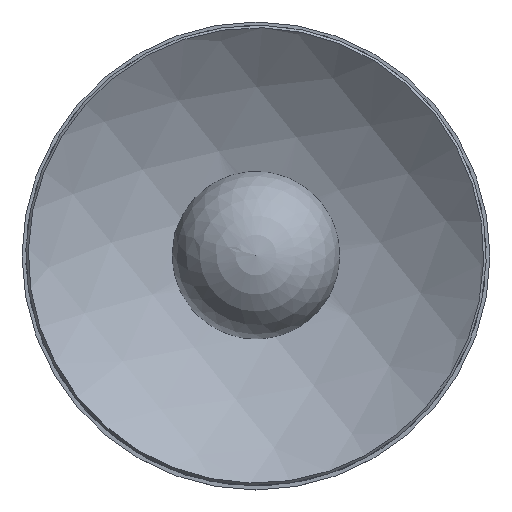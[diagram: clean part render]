
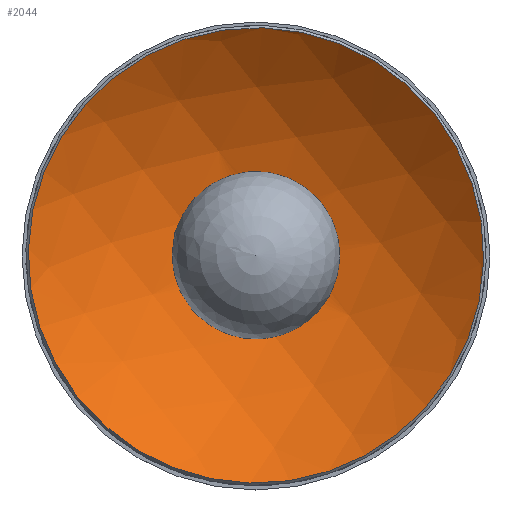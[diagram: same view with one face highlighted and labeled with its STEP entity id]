
A CAD part, top view. The second image highlights one B-rep face of the part: STEP entity #2044.
In plain terms, the highlighted spherical face has radius 90 mm.
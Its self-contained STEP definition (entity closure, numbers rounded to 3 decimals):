
#18=SPHERICAL_SURFACE('',#2293,90.);
#30=FACE_BOUND('',#585,.T.);
#457=FACE_OUTER_BOUND('',#584,.T.);
#584=EDGE_LOOP('',(#1640));
#585=EDGE_LOOP('',(#1641));
#714=CIRCLE('',#2288,60.832);
#716=CIRCLE('',#2292,14.5);
#896=VERTEX_POINT('',#3487);
#898=VERTEX_POINT('',#3494);
#1149=EDGE_CURVE('',#896,#896,#714,.T.);
#1152=EDGE_CURVE('',#898,#898,#716,.T.);
#1640=ORIENTED_EDGE('',*,*,#1149,.F.);
#1641=ORIENTED_EDGE('',*,*,#1152,.T.);
#2044=ADVANCED_FACE('',(#457,#30),#18,.F.);
#2288=AXIS2_PLACEMENT_3D('',#3489,#2852,#2853);
#2292=AXIS2_PLACEMENT_3D('',#3496,#2861,#2862);
#2293=AXIS2_PLACEMENT_3D('',#3497,#2863,#2864);
#2852=DIRECTION('center_axis',(0.,0.,
-1.));
#2853=DIRECTION('ref_axis',(0.622,-0.783,0.));
#2861=DIRECTION('center_axis',(0.,0.,
-1.));
#2862=DIRECTION('ref_axis',(0.622,-0.783,0.));
#2863=DIRECTION('center_axis',(0.783,0.622,0.));
#2864=DIRECTION('ref_axis',(0.622,-0.783,0.));
#3487=CARTESIAN_POINT('',(37.819,-47.647,88.346));
#3489=CARTESIAN_POINT('Origin',(0.,0.,
88.346));
#3494=CARTESIAN_POINT('',(9.015,-11.357,65.85));
#3496=CARTESIAN_POINT('Origin',(0.,0.,
65.85));
#3497=CARTESIAN_POINT('Origin',(0.,0.,
154.675));
